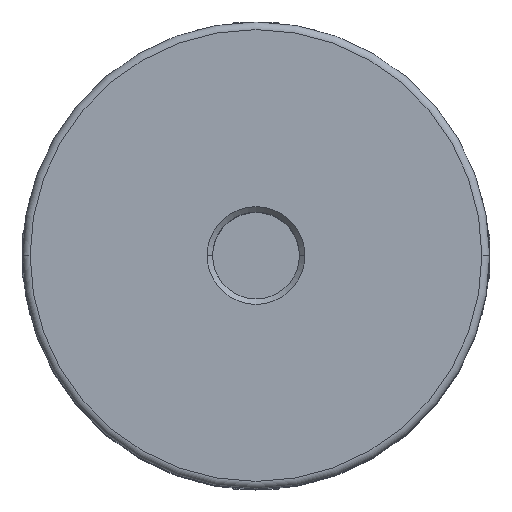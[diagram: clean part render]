
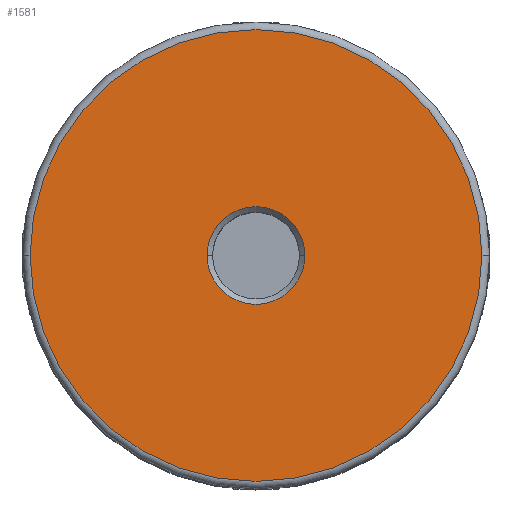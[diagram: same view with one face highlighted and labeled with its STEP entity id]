
A CAD part, top view. The second image highlights one B-rep face of the part: STEP entity #1581.
In plain terms, the highlighted planar face has unit normal (0, 0, 1).
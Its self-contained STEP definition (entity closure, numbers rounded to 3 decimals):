
#489 = EDGE_CURVE ( 'NONE', #5525, #5566, #5801, .T. ) ;
#490 = EDGE_CURVE ( 'NONE', #5521, #5532, #5799, .T. ) ;
#939 = ORIENTED_EDGE ( 'NONE', *, *, #4434, .T. ) ;
#1029 = ORIENTED_EDGE ( 'NONE', *, *, #490, .T. ) ;
#1032 = ORIENTED_EDGE ( 'NONE', *, *, #489, .T. ) ;
#1341 = ORIENTED_EDGE ( 'NONE', *, *, #4433, .T. ) ;
#1581 = ADVANCED_FACE ( 'NONE', ( #5933, #5928 ), #5412, .F. ) ;
#2851 = CARTESIAN_POINT ( 'NONE',  ( 20.8, 0., 26. ) ) ;
#2882 = CARTESIAN_POINT ( 'NONE',  ( 4.5, 0., 26. ) ) ;
#2893 = CARTESIAN_POINT ( 'NONE',  ( -20.8, 0., 26. ) ) ;
#2938 = CARTESIAN_POINT ( 'NONE',  ( -4.5, 0., 26. ) ) ;
#3832 = CARTESIAN_POINT ( 'NONE',  ( 0., 0., 26. ) ) ;
#3833 = DIRECTION ( 'NONE',  ( 0., 0., -1. ) ) ;
#3834 = DIRECTION ( 'NONE',  ( -1., 0., 0. ) ) ;
#3835 = CARTESIAN_POINT ( 'NONE',  ( 0., 0., 26. ) ) ;
#3836 = DIRECTION ( 'NONE',  ( 0., 0., 1. ) ) ;
#3837 = DIRECTION ( 'NONE',  ( -1., 0., 0. ) ) ;
#4433 = EDGE_CURVE ( 'NONE', #5566, #5525, #6411, .T. ) ;
#4434 = EDGE_CURVE ( 'NONE', #5532, #5521, #6413, .T. ) ;
#4676 = AXIS2_PLACEMENT_3D ( 'NONE', #7071, #6458, #6472 ) ;
#4677 = AXIS2_PLACEMENT_3D ( 'NONE', #6813, #6473, #7014 ) ;
#4869 = AXIS2_PLACEMENT_3D ( 'NONE', #5417, #5410, #5446 ) ;
#4949 = AXIS2_PLACEMENT_3D ( 'NONE', #3832, #3833, #3834 ) ;
#4950 = AXIS2_PLACEMENT_3D ( 'NONE', #3835, #3836, #3837 ) ;
#5410 = DIRECTION ( 'NONE',  ( 0., 0., -1. ) ) ;
#5412 = PLANE ( 'NONE',  #4869 ) ;
#5417 = CARTESIAN_POINT ( 'NONE',  ( 0., 0., 26. ) ) ;
#5446 = DIRECTION ( 'NONE',  ( -1., 0., 0. ) ) ;
#5513 = EDGE_LOOP ( 'NONE', ( #1032, #1341 ) ) ;
#5521 = VERTEX_POINT ( 'NONE', #2851 ) ;
#5525 = VERTEX_POINT ( 'NONE', #2882 ) ;
#5532 = VERTEX_POINT ( 'NONE', #2893 ) ;
#5566 = VERTEX_POINT ( 'NONE', #2938 ) ;
#5658 = EDGE_LOOP ( 'NONE', ( #939, #1029 ) ) ;
#5799 = CIRCLE ( 'NONE', #4677, 20.8 ) ;
#5801 = CIRCLE ( 'NONE', #4676, 4.5 ) ;
#5928 = FACE_OUTER_BOUND ( 'NONE', #5658, .T. ) ;
#5933 = FACE_BOUND ( 'NONE', #5513, .T. ) ;
#6411 = CIRCLE ( 'NONE', #4949, 4.5 ) ;
#6413 = CIRCLE ( 'NONE', #4950, 20.8 ) ;
#6458 = DIRECTION ( 'NONE',  ( 0., 0., -1. ) ) ;
#6472 = DIRECTION ( 'NONE',  ( -1., 0., 0. ) ) ;
#6473 = DIRECTION ( 'NONE',  ( 0., 0., 1. ) ) ;
#6813 = CARTESIAN_POINT ( 'NONE',  ( 0., 0., 26. ) ) ;
#7014 = DIRECTION ( 'NONE',  ( -1., 0., 0. ) ) ;
#7071 = CARTESIAN_POINT ( 'NONE',  ( 0., 0., 26. ) ) ;
